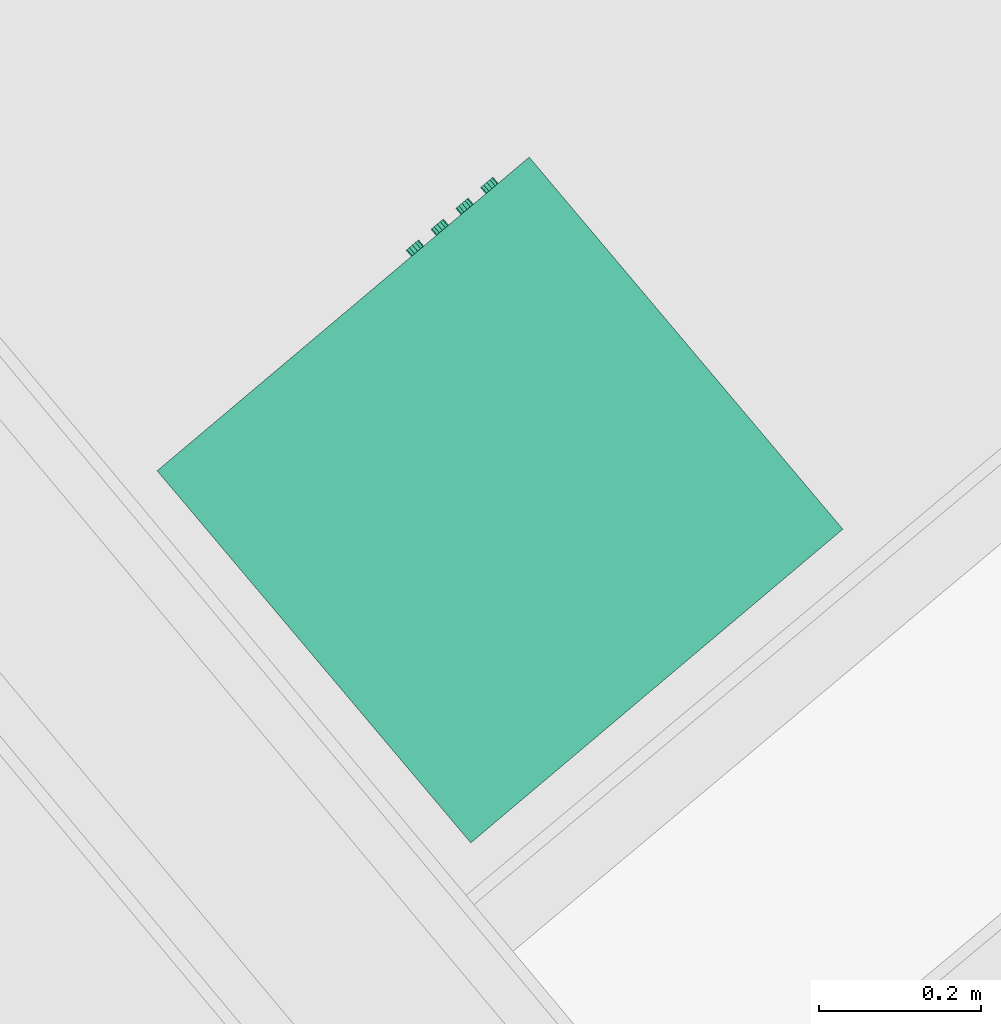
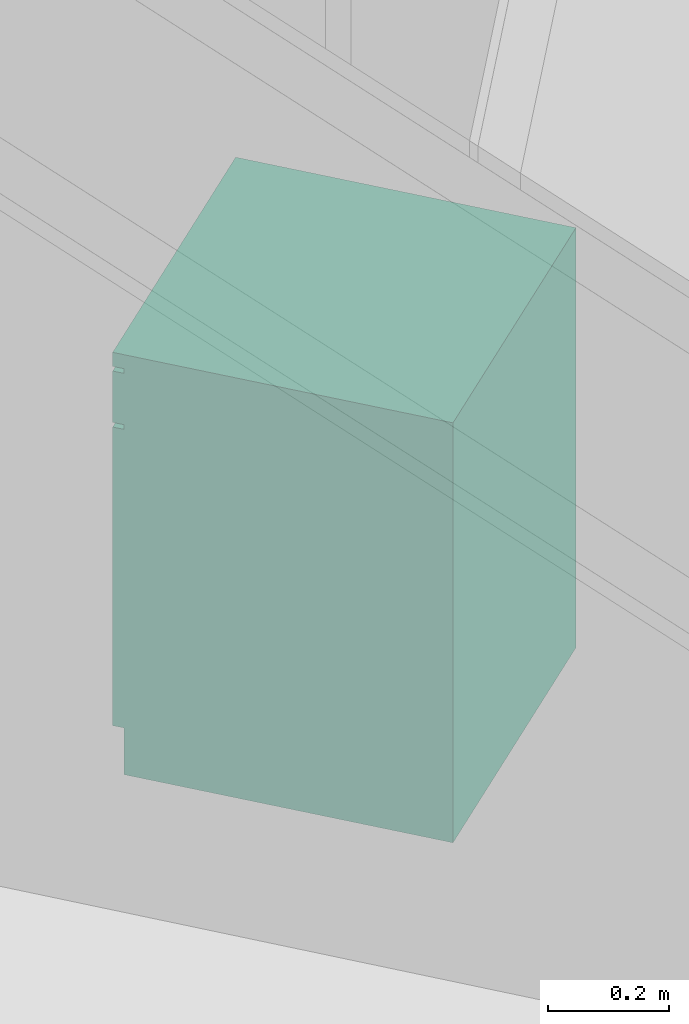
# One storey, part 53 of 58: 1 sanitary terminal.
"""IFC4 building model written with IfcOpenShell, lengths in metres."""

import ifcopenshell
import ifcopenshell.guid

model = None  # the IFC model being written
_history = None  # IfcOwnerHistory: only IFC2X3 demands one
_inside = {}  # id of a spatial element -> (the spatial element, [elements in it])
_under = {}  # id of a project, library or spatial element -> (it, [spatial elements below it])
_declared = {}  # id of a project -> (the project, [libraries it declares])
_typed = {}  # id of a type object -> (the type object, [elements of that type])
_made_of = {}  # id of a material, layer set ... -> (it, [elements and type objects made of it])


def new_model(schema):
    """Start an empty IFC model of exactly this schema.

    Asked for "IFC4X3", IfcOpenShell would pick the latest addendum, in which some entities
    have other attributes; the version numbers below select the first issue.
    IFC2X3 requires an IfcOwnerHistory on every rooted entity: one is made here for all.
    """
    global model, _history
    if schema == "IFC4X3":
        model = ifcopenshell.file(schema_version=(4, 3, 0, 0))
    else:
        model = ifcopenshell.file(schema=schema)
    _inside.clear()
    _under.clear()
    _declared.clear()
    _typed.clear()
    _made_of.clear()
    _history = None
    if model.schema == "IFC2X3":
        org = make("IfcOrganization", Name="unknown")
        user = make(
            "IfcPersonAndOrganization",
            ThePerson=make("IfcPerson", FamilyName="unknown"),
            TheOrganization=org,
        )
        app = make(
            "IfcApplication",
            ApplicationDeveloper=org,
            Version="unknown",
            ApplicationFullName="unknown",
            ApplicationIdentifier="unknown",
        )
        _history = make(
            "IfcOwnerHistory",
            OwningUser=user,
            OwningApplication=app,
            ChangeAction="ADDED",
            CreationDate=0,
        )
    return model


def make(cls, **values):
    """One entity of the class cls with the attributes given. An attribute that is None is left unset."""
    return model.create_entity(
        cls, **{name: value for name, value in values.items() if value is not None}
    )


def entity(cls, *values):
    """Any entity or typed value of the class cls, its attributes in the order of the schema. None: left unset."""
    e = model.create_entity(cls)
    for i, value in enumerate(values):
        if value is not None:
            e[i] = value
    return e


def rooted(cls, **values):
    """An entity with a GlobalId (a new one), such as an element, a storey or a relation."""
    return make(cls, GlobalId=ifcopenshell.guid.new(), OwnerHistory=_history, **values)


def si_unit(unit_type, name, prefix=None):
    """IfcSIUnit, for example si_unit("LENGTHUNIT", "METRE", prefix="MILLI")."""
    return make("IfcSIUnit", UnitType=unit_type, Prefix=prefix, Name=name)


def converted_unit(unit_type, name, factor, base, dimensions=None, offset=None):
    """IfcConversionBasedUnit, such as the inch: factor (a typed value) times the base unit."""
    return make(
        "IfcConversionBasedUnit"
        if offset is None
        else "IfcConversionBasedUnitWithOffset",
        ConversionOffset=offset,
        Dimensions=None
        if dimensions is None
        else entity("IfcDimensionalExponents", *dimensions),
        UnitType=unit_type,
        Name=name,
        ConversionFactor=make(
            "IfcMeasureWithUnit", ValueComponent=factor, UnitComponent=base
        ),
    )


def derived_unit(unit_type, elements):
    """IfcDerivedUnit: a product of units, each with its exponent."""
    return make(
        "IfcDerivedUnit",
        Elements=[
            make("IfcDerivedUnitElement", Unit=unit, Exponent=power)
            for unit, power in elements
        ],
        UnitType=unit_type,
    )


def assignment(units):
    """IfcUnitAssignment: the units of a project."""
    return None if units is None else make("IfcUnitAssignment", Units=units)


def point(xyz):
    """IfcCartesianPoint."""
    return None if xyz is None else make("IfcCartesianPoint", Coordinates=xyz)


def direction(xyz):
    """IfcDirection."""
    return None if xyz is None else make("IfcDirection", DirectionRatios=xyz)


def frame(location, z_axis=None, x_axis=None):
    """IfcAxis2Placement3D, a coordinate frame: its origin and axes. An axis left out is left unset."""
    return make(
        "IfcAxis2Placement3D",
        Location=point(location),
        Axis=direction(z_axis),
        RefDirection=direction(x_axis),
    )


def origin_with_axes():
    """The frame at (0, 0, 0) with the z axis (0, 0, 1) and the x axis (1, 0, 0) written out."""
    return frame((0.0, 0.0, 0.0), z_axis=(0.0, 0.0, 1.0), x_axis=(1.0, 0.0, 0.0))


def place(relative_to, where):
    """IfcLocalPlacement: puts the frame where relative to a parent placement (None: the world)."""
    return make(
        "IfcLocalPlacement", PlacementRelTo=relative_to, RelativePlacement=where
    )


def context(
    kind, dimensions, precision=None, world=None, true_north=None, identifier=None
):
    """IfcGeometricRepresentationContext, for example the 3D "Model" context."""
    return make(
        "IfcGeometricRepresentationContext",
        ContextIdentifier=identifier,
        ContextType=kind,
        CoordinateSpaceDimension=dimensions,
        Precision=precision,
        WorldCoordinateSystem=world,
        TrueNorth=true_north,
    )


def subcontext(parent, identifier, kind, view, scale=None):
    """IfcGeometricRepresentationSubContext, for example "Body" below "Model"."""
    return make(
        "IfcGeometricRepresentationSubContext",
        ContextIdentifier=identifier,
        ContextType=kind,
        ParentContext=parent,
        TargetScale=scale,
        TargetView=view,
    )


def project(units=None, contexts=None):
    """IfcProject with its units and contexts."""
    return rooted(
        "IfcProject",
        Name="project",
        RepresentationContexts=contexts,
        UnitsInContext=assignment(units),
    )


def spatial(cls, under=None, at=None, **own):
    """A site, building, storey or space (cls), placed at a placement, below another one or the project."""
    s = rooted(cls, ObjectPlacement=at, **own)
    if under is not None:
        _under.setdefault(under.id(), (under, []))[1].append(s)
    return s


def point_list(points):
    """IfcCartesianPointList2D or 3D."""
    cls = (
        "IfcCartesianPointList2D" if len(points[0]) == 2 else "IfcCartesianPointList3D"
    )
    return make(cls, CoordList=points)


def polygons(points, faces, closed=None, point_numbers=None):
    """IfcPolygonalFaceSet: a face is its outer loop, then its inner loops; points numbered from 1."""
    made = []
    for loops in faces:
        if len(loops) == 1:
            made.append(make("IfcIndexedPolygonalFace", CoordIndex=loops[0]))
        else:
            made.append(
                make(
                    "IfcIndexedPolygonalFaceWithVoids",
                    CoordIndex=loops[0],
                    InnerCoordIndices=loops[1:],
                )
            )
    return make(
        "IfcPolygonalFaceSet",
        Coordinates=point_list(points),
        Closed=closed,
        Faces=made,
        PnIndex=point_numbers,
    )


def shape(context_of_items, identifier, shape_type, items):
    """IfcShapeRepresentation: the items that make up one representation, for example the "Body"."""
    return make(
        "IfcShapeRepresentation",
        ContextOfItems=context_of_items,
        RepresentationIdentifier=identifier,
        RepresentationType=shape_type,
        Items=items,
    )


def source(mapping_origin, context_of_items, identifier, shape_type, items):
    """IfcRepresentationMap: a shape defined once, which mapped items show again and again."""
    return make(
        "IfcRepresentationMap",
        MappingOrigin=mapping_origin,
        MappedRepresentation=shape(context_of_items, identifier, shape_type, items),
    )


def transform(
    local_origin,
    x_axis=None,
    y_axis=None,
    z_axis=None,
    scale=None,
    scale2=None,
    scale3=None,
    uniform=True,
):
    """IfcCartesianTransformationOperator3D, or its non-uniform kind. x_axis, y_axis, z_axis: its Axis1, 2, 3."""
    if uniform:
        return make(
            "IfcCartesianTransformationOperator3D",
            Axis1=direction(x_axis),
            Axis2=direction(y_axis),
            LocalOrigin=point(local_origin),
            Scale=scale,
            Axis3=direction(z_axis),
        )
    return make(
        "IfcCartesianTransformationOperator3DnonUniform",
        Axis1=direction(x_axis),
        Axis2=direction(y_axis),
        LocalOrigin=point(local_origin),
        Scale=scale,
        Axis3=direction(z_axis),
        Scale2=scale2,
        Scale3=scale3,
    )


def mapped(mapping_source, mapping_target):
    """IfcMappedItem: shows the shape of a source again, moved by a transform."""
    return make(
        "IfcMappedItem", MappingSource=mapping_source, MappingTarget=mapping_target
    )


def made_of(thing, what):
    """Note that an element or type object is made of a material, layer set ...; save() writes the relation."""
    if what is not None:
        _made_of.setdefault(what.id(), (what, []))[1].append(thing)
    return thing


def type_object(cls, material=None, **own):
    """A type object (cls), such as IfcWallType, which elements share."""
    return made_of(rooted(cls, **own), material)


def element(
    cls,
    number,
    at=None,
    inside=None,
    cuts=None,
    type_object=None,
    material=None,
    context=None,
    identifier="Body",
    shape_type=None,
    held_by="IfcProductDefinitionShape",
    body=None,
    shapes=None,
    **own,
):
    """One element of the class cls, such as IfcWall. Its Tag is "e" and its number.

    at: its placement. inside: the storey or other place that contains it. cuts: it is an
    opening in that element (IfcRelVoidsElement). A single representation is given by context,
    identifier, shape_type and body (its items); several are given by shapes. held_by: the class
    of the entity that holds the representations. save() writes the other relations.
    """
    e = rooted(cls, Tag="e%d" % number, ObjectPlacement=at, **own)
    if body is not None:
        shapes = [shape(context, identifier, shape_type, body)]
    if shapes is not None:
        e.Representation = make(held_by, Representations=shapes)
    if inside is not None:
        _inside.setdefault(inside.id(), (inside, []))[1].append(e)
    if cuts is not None:
        rooted(
            "IfcRelVoidsElement", RelatingBuildingElement=cuts, RelatedOpeningElement=e
        )
    if type_object is not None:
        _typed.setdefault(type_object.id(), (type_object, []))[1].append(e)
    return made_of(e, material)


def aggregate(whole, parts):
    """IfcRelAggregates: a whole, such as a stair, and the parts it consists of."""
    return rooted("IfcRelAggregates", RelatingObject=whole, RelatedObjects=parts)


def save(model, path):
    """Write the relations noted so far, then the file.

    IfcRelAggregates (storeys below a building ...), IfcRelContainedInSpatialStructure (elements
    in a storey), IfcRelDefinesByType, IfcRelAssociatesMaterial and IfcRelDeclares: one each for
    every whole, place, type object, material and project.
    """
    for whole, parts in _under.values():
        aggregate(whole, parts)
    for where, things in _inside.values():
        rooted(
            "IfcRelContainedInSpatialStructure",
            RelatedElements=things,
            RelatingStructure=where,
        )
    for kind, things in _typed.values():
        rooted("IfcRelDefinesByType", RelatedObjects=things, RelatingType=kind)
    for what, things in _made_of.values():
        rooted("IfcRelAssociatesMaterial", RelatedObjects=things, RelatingMaterial=what)
    for by, libraries in _declared.values():
        rooted("IfcRelDeclares", RelatingContext=by, RelatedDefinitions=libraries)
    model.write(path)


model = new_model("IFC4")

# Units and contexts
model_context = context("Model", 3, precision=1e-05, world=origin_with_axes(), true_north=direction((0.0, 1.0)))
body_context = subcontext(model_context, "Body", "Model", "MODEL_VIEW")
ifc_project = project(units=[si_unit("LENGTHUNIT", "METRE"), si_unit("AREAUNIT", "SQUARE_METRE"), si_unit("VOLUMEUNIT", "CUBIC_METRE"), converted_unit("PLANEANGLEUNIT", "DEGREE", entity("IfcPlaneAngleMeasure", 0.0174532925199), si_unit("PLANEANGLEUNIT", "RADIAN"), dimensions=[0, 0, 0, 0, 0, 0, 0]), converted_unit("TIMEUNIT", "Year", entity("IfcTimeMeasure", 31556926.0), si_unit("TIMEUNIT", "SECOND"), dimensions=[0, 0, 1, 0, 0, 0, 0]), si_unit("MASSUNIT", "GRAM", prefix="KILO"), si_unit("THERMODYNAMICTEMPERATUREUNIT", "DEGREE_CELSIUS"), si_unit("LUMINOUSINTENSITYUNIT", "LUMEN"), si_unit("ENERGYUNIT", "JOULE", prefix="MEGA"), derived_unit("THERMALCONDUCTANCEUNIT", [(si_unit("POWERUNIT", "WATT"), 1), (si_unit("LENGTHUNIT", "METRE"), -1), (si_unit("THERMODYNAMICTEMPERATUREUNIT", "KELVIN"), -1)]), derived_unit("SPECIFICHEATCAPACITYUNIT", [(si_unit("ENERGYUNIT", "JOULE"), 1), (si_unit("MASSUNIT", "GRAM", prefix="KILO"), -1), (si_unit("THERMODYNAMICTEMPERATUREUNIT", "KELVIN"), -1)]), derived_unit("MASSDENSITYUNIT", [(si_unit("MASSUNIT", "GRAM", prefix="KILO"), 1), (si_unit("VOLUMEUNIT", "CUBIC_METRE"), -1)])], contexts=[model_context])

# Site, building, storey
site_placement = place(None, frame((-0.00153261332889, -0.00661245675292, 0.0), z_axis=(0.0, 0.0, 1.0), x_axis=(1.0, 0.0, 0.0)))
site = spatial("IfcSite", under=ifc_project, at=site_placement, Name="Site", CompositionType="ELEMENT")
building_placement = place(site_placement, origin_with_axes())
building = spatial("IfcBuilding", under=site, at=building_placement, Name="Building", CompositionType="ELEMENT")
storey_placement = place(building_placement, frame((0.0, 0.0, 5.7), z_axis=(0.0, 0.0, 1.0), x_axis=(1.0, 0.0, 0.0)))
storey = spatial("IfcBuildingStorey", under=building, at=storey_placement, Name="DG1", CompositionType="ELEMENT", Elevation=5.7)

# Sanitary terminal
sanitary_terminal_type = type_object("IfcSanitaryTerminalType", Name="Waschmaschine 01 26", PredefinedType="NOTDEFINED")
shared_shape = source(origin_with_axes(), body_context, "Body", "Tessellation", [
    polygons([(-0.3, -0.58, 0.0944444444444), (0.3, -0.58, 0.0944444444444), (0.3, -0.6, 0.0944444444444), (-0.3, -0.6, 0.0944444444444), (-0.3, -0.58, 0.698888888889), (0.3, -0.58, 0.698888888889), (0.17, -0.58, 0.396666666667), (0.147224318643, -0.58, 0.481666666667), (0.085, -0.58, 0.54389098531), (0.0, -0.58, 0.566666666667), (-0.085, -0.58, 0.54389098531), (-0.147224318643, -0.58, 0.481666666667), (-0.17, -0.58, 0.396666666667), (-0.147224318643, -0.58, 0.311666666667), (-0.085, -0.58, 0.249442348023), (0.0, -0.58, 0.226666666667), (0.085, -0.58, 0.249442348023), (0.147224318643, -0.58, 0.311666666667), (0.3, -0.6, 0.698888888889), (-0.3, -0.6, 0.698888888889), (0.17, -0.6, 0.396666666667), (0.147224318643, -0.6, 0.311666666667), (0.085, -0.6, 0.249442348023), (0.0, -0.6, 0.226666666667), (-0.085, -0.6, 0.249442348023), (-0.147224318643, -0.6, 0.311666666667), (-0.17, -0.6, 0.396666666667), (-0.147224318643, -0.6, 0.481666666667), (-0.085, -0.6, 0.54389098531), (0.0, -0.6, 0.566666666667), (0.085, -0.6, 0.54389098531), (0.147224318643, -0.6, 0.481666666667)], [[[1, 2, 3, 4]], [[1, 5, 6, 2], [7, 8, 9, 10, 11, 12, 13, 14, 15, 16, 17, 18]], [[2, 6, 19, 3]], [[4, 3, 19, 20], [21, 22, 23, 24, 25, 26, 27, 28, 29, 30, 31, 32]], [[5, 1, 4, 20]], [[6, 5, 20, 19]], [[8, 7, 21, 32]], [[9, 8, 32, 31]], [[10, 9, 31, 30]], [[11, 10, 30, 29]], [[12, 11, 29, 28]], [[13, 12, 28, 27]], [[14, 13, 27, 26]], [[15, 14, 26, 25]], [[16, 15, 25, 24]], [[17, 16, 24, 23]], [[18, 17, 23, 22]], [[7, 18, 22, 21]]], closed=True),
    polygons([(0.17, -0.56, 0.396666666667), (0.147224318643, -0.56, 0.481666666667), (0.147224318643, -0.58, 0.481666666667), (0.17, -0.58, 0.396666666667), (0.147224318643, -0.56, 0.311666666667), (0.085, -0.56, 0.249442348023), (0.0, -0.56, 0.226666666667), (-0.085, -0.56, 0.249442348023), (-0.147224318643, -0.56, 0.311666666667), (-0.17, -0.56, 0.396666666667), (-0.147224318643, -0.56, 0.481666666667), (-0.085, -0.56, 0.54389098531), (0.0, -0.56, 0.566666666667), (0.085, -0.56, 0.54389098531), (0.136, -0.56, 0.396666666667), (0.117779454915, -0.56, 0.464666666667), (0.068, -0.56, 0.514446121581), (0.0, -0.56, 0.532666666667), (-0.068, -0.56, 0.514446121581), (-0.117779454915, -0.56, 0.464666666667), (-0.136, -0.56, 0.396666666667), (-0.117779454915, -0.56, 0.328666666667), (-0.068, -0.56, 0.278887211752), (0.0, -0.56, 0.260666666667), (0.068, -0.56, 0.278887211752), (0.117779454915, -0.56, 0.328666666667), (0.085, -0.58, 0.54389098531), (0.0, -0.58, 0.566666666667), (-0.085, -0.58, 0.54389098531), (-0.147224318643, -0.58, 0.481666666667), (-0.17, -0.58, 0.396666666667), (-0.147224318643, -0.58, 0.311666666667), (-0.085, -0.58, 0.249442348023), (0.0, -0.58, 0.226666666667), (0.085, -0.58, 0.249442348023), (0.147224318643, -0.58, 0.311666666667), (0.136, -0.58, 0.396666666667), (0.117779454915, -0.58, 0.328666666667), (0.068, -0.58, 0.278887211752), (0.0, -0.58, 0.260666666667), (-0.068, -0.58, 0.278887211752), (-0.117779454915, -0.58, 0.328666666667), (-0.136, -0.58, 0.396666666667), (-0.117779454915, -0.58, 0.464666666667), (-0.068, -0.58, 0.514446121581), (0.0, -0.58, 0.532666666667), (0.068, -0.58, 0.514446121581), (0.117779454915, -0.58, 0.464666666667)], [[[1, 2, 3, 4]], [[1, 5, 6, 7, 8, 9, 10, 11, 12, 13, 14, 2], [15, 16, 17, 18, 19, 20, 21, 22, 23, 24, 25, 26]], [[2, 14, 27, 3]], [[4, 3, 27, 28, 29, 30, 31, 32, 33, 34, 35, 36], [37, 38, 39, 40, 41, 42, 43, 44, 45, 46, 47, 48]], [[5, 1, 4, 36]], [[6, 5, 36, 35]], [[7, 6, 35, 34]], [[8, 7, 34, 33]], [[9, 8, 33, 32]], [[10, 9, 32, 31]], [[11, 10, 31, 30]], [[12, 11, 30, 29]], [[13, 12, 29, 28]], [[14, 13, 28, 27]], [[16, 15, 37, 48]], [[17, 16, 48, 47]], [[18, 17, 47, 46]], [[19, 18, 46, 45]], [[20, 19, 45, 44]], [[21, 20, 44, 43]], [[22, 21, 43, 42]], [[23, 22, 42, 41]], [[24, 23, 41, 40]], [[25, 24, 40, 39]], [[26, 25, 39, 38]], [[15, 26, 38, 37]]], closed=True),
    polygons([(-0.068, -0.56, 0.514446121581), (0.0, -0.56, 0.532666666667), (0.0, -0.46, 0.498666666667), (-0.051, -0.46, 0.485001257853), (0.068, -0.56, 0.514446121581), (0.051, -0.46, 0.485001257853), (0.088334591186, -0.46, 0.447666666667), (0.102, -0.46, 0.396666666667), (0.088334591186, -0.46, 0.345666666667), (0.051, -0.46, 0.308332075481), (0.0, -0.46, 0.294666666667), (-0.051, -0.46, 0.308332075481), (-0.088334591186, -0.46, 0.345666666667), (-0.102, -0.46, 0.396666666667), (-0.088334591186, -0.46, 0.447666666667), (-0.117779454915, -0.56, 0.464666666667), (0.117779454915, -0.56, 0.464666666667), (0.136, -0.56, 0.396666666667), (0.117779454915, -0.56, 0.328666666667), (0.068, -0.56, 0.278887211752), (0.0, -0.56, 0.260666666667), (-0.068, -0.56, 0.278887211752), (-0.117779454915, -0.56, 0.328666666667), (-0.136, -0.56, 0.396666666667)], [[[1, 2, 3, 4]], [[2, 5, 6, 3]], [[3, 6, 7, 8, 9, 10, 11, 12, 13, 14, 15, 4]], [[16, 1, 4, 15]], [[5, 17, 7, 6]], [[17, 18, 8, 7]], [[18, 19, 9, 8]], [[19, 20, 10, 9]], [[20, 21, 11, 10]], [[21, 22, 12, 11]], [[22, 23, 13, 12]], [[23, 24, 14, 13]], [[24, 16, 15, 14]]], closed=False),
    polygons([(-0.3, -0.58, 0.0944444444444), (-0.3, -0.58, 0.821666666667), (-0.3, 0.0, 0.821666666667), (-0.3, 0.0, 0.0944444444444)], [[[1, 2, 3, 4]]], closed=False),
    polygons([(0.3, -0.58, 0.0944444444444), (0.3, -0.58, 0.821666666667), (0.3, 0.0, 0.821666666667), (0.3, 0.0, 0.0944444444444)], [[[1, 2, 3, 4]]], closed=False),
    polygons([(-0.3, 0.0, 0.0944444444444), (-0.3, 0.0, 0.821666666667), (0.3, 0.0, 0.821666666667), (0.3, 0.0, 0.0944444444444)], [[[1, 2, 3, 4]]], closed=False),
    polygons([(-0.3, -0.58, 0.0), (0.3, -0.58, 0.0), (0.3, -0.58, 0.0944444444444), (-0.3, -0.58, 0.0944444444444), (-0.3, 0.0, 0.0), (0.3, 0.0, 0.0), (0.3, 0.0, 0.0944444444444), (-0.3, 0.0, 0.0944444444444)], [[[1, 2, 3, 4]], [[1, 5, 6, 2]], [[2, 6, 7, 3]], [[4, 3, 7, 8]], [[5, 1, 4, 8]], [[6, 5, 8, 7]]], closed=True),
    polygons([(-0.3, -0.58, 0.708333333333), (0.3, -0.58, 0.708333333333), (0.3, -0.6, 0.708333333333), (-0.3, -0.6, 0.708333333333), (-0.3, -0.58, 0.812222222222), (0.3, -0.58, 0.812222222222), (0.3, -0.6, 0.812222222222), (-0.3, -0.6, 0.812222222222)], [[[1, 2, 3, 4]], [[1, 5, 6, 2]], [[2, 6, 7, 3]], [[4, 3, 7, 8]], [[5, 1, 4, 8]], [[6, 5, 8, 7]]], closed=True),
    polygons([(-0.3, -0.58, 0.698888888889), (-0.3, -0.58, 0.821666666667), (0.3, -0.58, 0.821666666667), (0.3, -0.58, 0.698888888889)], [[[1, 2, 3, 4]]], closed=False),
    polygons([(-0.3, -0.6, 0.821666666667), (0.3, -0.6, 0.821666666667), (0.3, -0.6, 0.85), (-0.3, -0.6, 0.85), (-0.3, 0.0, 0.821666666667), (0.3, 0.0, 0.821666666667), (0.3, 0.0, 0.85), (-0.3, 0.0, 0.85)], [[[1, 2, 3, 4]], [[1, 5, 6, 2]], [[2, 6, 7, 3]], [[4, 3, 7, 8]], [[5, 1, 4, 8]], [[6, 5, 8, 7]]], closed=True),
    polygons([(-0.231339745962, -0.6, 0.76), (-0.235, -0.6, 0.756339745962), (-0.24, -0.6, 0.755), (-0.245, -0.6, 0.756339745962), (-0.248660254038, -0.6, 0.76), (-0.25, -0.6, 0.765), (-0.248660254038, -0.6, 0.77), (-0.245, -0.6, 0.773660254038), (-0.24, -0.6, 0.775), (-0.235, -0.6, 0.773660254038), (-0.231339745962, -0.6, 0.77), (-0.23, -0.6, 0.765), (-0.231339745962, -0.61, 0.76), (-0.235, -0.61, 0.756339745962), (-0.24, -0.61, 0.755), (-0.245, -0.61, 0.756339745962), (-0.248660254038, -0.61, 0.76), (-0.25, -0.61, 0.765), (-0.248660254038, -0.61, 0.77), (-0.245, -0.61, 0.773660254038), (-0.24, -0.61, 0.775), (-0.235, -0.61, 0.773660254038), (-0.231339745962, -0.61, 0.77), (-0.23, -0.61, 0.765)], [[[1, 2, 3, 4, 5, 6, 7, 8, 9, 10, 11, 12]], [[2, 1, 13, 14]], [[3, 2, 14, 15]], [[4, 3, 15, 16]], [[5, 4, 16, 17]], [[6, 5, 17, 18]], [[7, 6, 18, 19]], [[8, 7, 19, 20]], [[9, 8, 20, 21]], [[10, 9, 21, 22]], [[11, 10, 22, 23]], [[12, 11, 23, 24]], [[1, 12, 24, 13]], [[13, 24, 23, 22, 21, 20, 19, 18, 17, 16, 15, 14]]], closed=True),
    polygons([(-0.191339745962, -0.6, 0.76), (-0.195, -0.6, 0.756339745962), (-0.2, -0.6, 0.755), (-0.205, -0.6, 0.756339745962), (-0.208660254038, -0.6, 0.76), (-0.21, -0.6, 0.765), (-0.208660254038, -0.6, 0.77), (-0.205, -0.6, 0.773660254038), (-0.2, -0.6, 0.775), (-0.195, -0.6, 0.773660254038), (-0.191339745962, -0.6, 0.77), (-0.19, -0.6, 0.765), (-0.191339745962, -0.61, 0.76), (-0.195, -0.61, 0.756339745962), (-0.2, -0.61, 0.755), (-0.205, -0.61, 0.756339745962), (-0.208660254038, -0.61, 0.76), (-0.21, -0.61, 0.765), (-0.208660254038, -0.61, 0.77), (-0.205, -0.61, 0.773660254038), (-0.2, -0.61, 0.775), (-0.195, -0.61, 0.773660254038), (-0.191339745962, -0.61, 0.77), (-0.19, -0.61, 0.765)], [[[1, 2, 3, 4, 5, 6, 7, 8, 9, 10, 11, 12]], [[2, 1, 13, 14]], [[3, 2, 14, 15]], [[4, 3, 15, 16]], [[5, 4, 16, 17]], [[6, 5, 17, 18]], [[7, 6, 18, 19]], [[8, 7, 19, 20]], [[9, 8, 20, 21]], [[10, 9, 21, 22]], [[11, 10, 22, 23]], [[12, 11, 23, 24]], [[1, 12, 24, 13]], [[13, 24, 23, 22, 21, 20, 19, 18, 17, 16, 15, 14]]], closed=True),
    polygons([(-0.151339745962, -0.6, 0.76), (-0.155, -0.6, 0.756339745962), (-0.16, -0.6, 0.755), (-0.165, -0.6, 0.756339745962), (-0.168660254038, -0.6, 0.76), (-0.17, -0.6, 0.765), (-0.168660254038, -0.6, 0.77), (-0.165, -0.6, 0.773660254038), (-0.16, -0.6, 0.775), (-0.155, -0.6, 0.773660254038), (-0.151339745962, -0.6, 0.77), (-0.15, -0.6, 0.765), (-0.151339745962, -0.61, 0.76), (-0.155, -0.61, 0.756339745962), (-0.16, -0.61, 0.755), (-0.165, -0.61, 0.756339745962), (-0.168660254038, -0.61, 0.76), (-0.17, -0.61, 0.765), (-0.168660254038, -0.61, 0.77), (-0.165, -0.61, 0.773660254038), (-0.16, -0.61, 0.775), (-0.155, -0.61, 0.773660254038), (-0.151339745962, -0.61, 0.77), (-0.15, -0.61, 0.765)], [[[1, 2, 3, 4, 5, 6, 7, 8, 9, 10, 11, 12]], [[2, 1, 13, 14]], [[3, 2, 14, 15]], [[4, 3, 15, 16]], [[5, 4, 16, 17]], [[6, 5, 17, 18]], [[7, 6, 18, 19]], [[8, 7, 19, 20]], [[9, 8, 20, 21]], [[10, 9, 21, 22]], [[11, 10, 22, 23]], [[12, 11, 23, 24]], [[1, 12, 24, 13]], [[13, 24, 23, 22, 21, 20, 19, 18, 17, 16, 15, 14]]], closed=True),
    polygons([(-0.111339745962, -0.6, 0.76), (-0.115, -0.6, 0.756339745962), (-0.12, -0.6, 0.755), (-0.125, -0.6, 0.756339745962), (-0.128660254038, -0.6, 0.76), (-0.13, -0.6, 0.765), (-0.128660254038, -0.6, 0.77), (-0.125, -0.6, 0.773660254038), (-0.12, -0.6, 0.775), (-0.115, -0.6, 0.773660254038), (-0.111339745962, -0.6, 0.77), (-0.11, -0.6, 0.765), (-0.111339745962, -0.61, 0.76), (-0.115, -0.61, 0.756339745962), (-0.12, -0.61, 0.755), (-0.125, -0.61, 0.756339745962), (-0.128660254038, -0.61, 0.76), (-0.13, -0.61, 0.765), (-0.128660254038, -0.61, 0.77), (-0.125, -0.61, 0.773660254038), (-0.12, -0.61, 0.775), (-0.115, -0.61, 0.773660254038), (-0.111339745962, -0.61, 0.77), (-0.11, -0.61, 0.765)], [[[1, 2, 3, 4, 5, 6, 7, 8, 9, 10, 11, 12]], [[2, 1, 13, 14]], [[3, 2, 14, 15]], [[4, 3, 15, 16]], [[5, 4, 16, 17]], [[6, 5, 17, 18]], [[7, 6, 18, 19]], [[8, 7, 19, 20]], [[9, 8, 20, 21]], [[10, 9, 21, 22]], [[11, 10, 22, 23]], [[12, 11, 23, 24]], [[1, 12, 24, 13]], [[13, 24, 23, 22, 21, 20, 19, 18, 17, 16, 15, 14]]], closed=True),
])
sanitary_terminal_placement = place(storey_placement, frame((4.69390300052, 21.439428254, 0.22), z_axis=(0.0, 0.0, 1.0), x_axis=(-0.764561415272, -0.644550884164, 0.0)))
element("IfcSanitaryTerminal", 1, at=sanitary_terminal_placement, inside=storey, type_object=sanitary_terminal_type, Name="Objekt-0002", PredefinedType="NOTDEFINED", context=body_context, shape_type="MappedRepresentation", body=[
    mapped(shared_shape, transform((0.0, 0.0, 0.0))),
])

save(model, "model.ifc")
